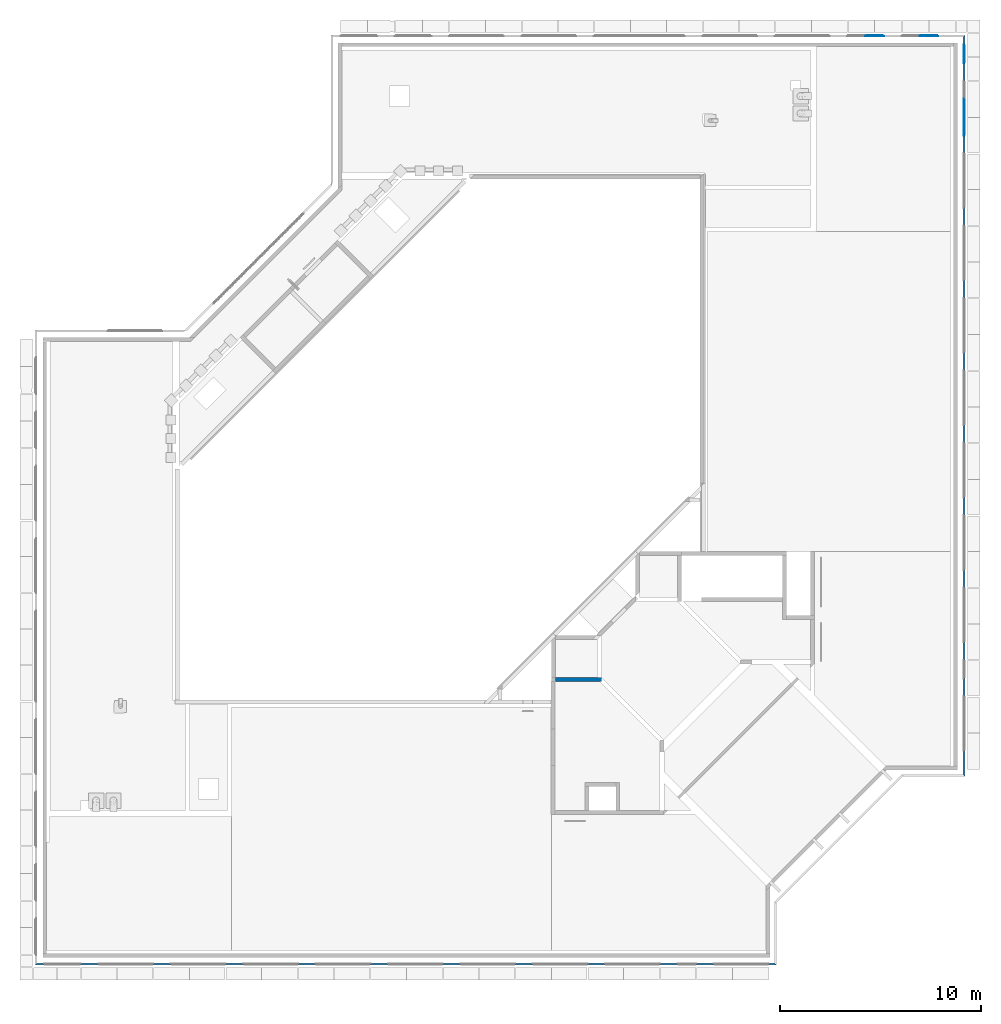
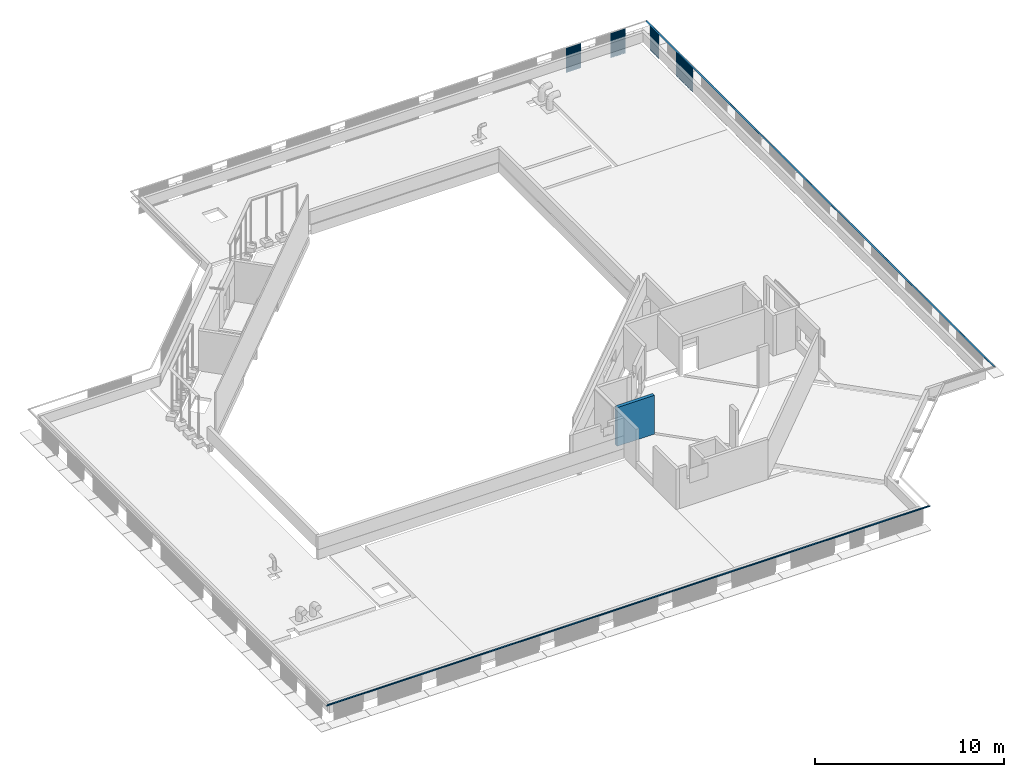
# One storey, part 16 of 37: 6 walls, 2 discrete accessories.
"""IFC4X3_ADD2 building model written with IfcOpenShell, lengths in millimetres."""

from ifc_helpers import new_model, si_unit, direction, frame, origin_with_axes, place, context, subcontext, project, spatial, polyline, outline, extrude, polygons, source, transform, mapped, material, type_object, element, save


model = new_model("IFC4X3_ADD2")

# Units and contexts
model_context = context("Model", 3, precision=1e-05, world=origin_with_axes(), true_north=direction((0.0, 1.0)))
body_context = subcontext(model_context, "Body", "Model", "MODEL_VIEW")
ifc_project = project(units=[si_unit("LENGTHUNIT", "METRE", prefix="MILLI"), si_unit("AREAUNIT", "SQUARE_METRE"), si_unit("VOLUMEUNIT", "CUBIC_METRE"), si_unit("PLANEANGLEUNIT", "RADIAN"), si_unit("TIMEUNIT", "SECOND"), si_unit("MASSUNIT", "GRAM")], contexts=[model_context])

# Site, building, storey
site_placement = place(None, origin_with_axes())
site = spatial("IfcSite", under=ifc_project, at=site_placement, Name="Site", CompositionType="ELEMENT")
building_placement = place(site_placement, origin_with_axes())
building = spatial("IfcBuilding", under=site, at=building_placement, Name="IFC Building Story")
storey_placement = place(building_placement, frame((0.0, 0.0, 14400.0), z_axis=(0.0, 0.0, 1.0), x_axis=(1.0, 0.0, 0.0)))
storey = spatial("IfcBuildingStorey", under=building, at=storey_placement, Name="040", Elevation=14400.0)

# Walls
ifc_material_1 = material(Name="BB_Metaal_Aluminium_Puntprofiel")
wall_type = type_object("IfcWallType", Name="BB_Metaal_Aluminium_Puntprofiel 1", PredefinedType="NOTDEFINED", material=ifc_material_1)
wall_1_placement = place(storey_placement, origin_with_axes())
element("IfcWall", 1, at=wall_1_placement, inside=storey, type_object=wall_type, Name="BB_07.10_Gevelbekleding_PuntProfiel, 900 mm, vol_GMO:900 x 1600 mm", ObjectType="BB_07.10_Gevelbekleding_PuntProfiel, 900 mm, vol_GMO:900 x 1600 mm", PredefinedType="NOTDEFINED", context=body_context, shape_type="SweptSolid", body=[
    extrude(outline(polyline([(-10.06027913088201, -349.0000000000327), (-10.06027913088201, -371.0000000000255), (23.93972086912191, -405.0000000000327), (-10.06027913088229, -439.0000000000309), (-10.06027913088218, -461.0000000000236), (-11.06027913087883, -461.4142135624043), (-11.06027913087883, -438.5857864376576), (22.52550730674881, -405.0000000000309), (-11.06027913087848, -371.4142135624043), (-11.06027913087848, -348.5857864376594), (22.52550730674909, -315.0000000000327), (-11.0602791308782, -281.4142135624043), (-11.0602791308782, -258.5857864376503), (22.52550730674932, -225.0000000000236), (-11.06027913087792, -191.4142135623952), (-11.06027913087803, -168.585786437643), (22.5255073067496, -135.0000000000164), (-11.0602791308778, -101.4142135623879), (-11.06027913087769, -78.58578643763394), (22.52550730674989, -45.00000000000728), (-11.06027913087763, -11.41421356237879), (-11.06027913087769, 11.41421356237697), (22.52550730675, 45.00000000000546), (-11.0602791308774, 78.58578643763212), (-11.0602791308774, 101.4142135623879), (22.52550730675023, 135.0000000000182), (-11.06027913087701, 168.585786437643), (-11.06027913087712, 191.4142135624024), (22.5255073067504, 225.0000000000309), (-11.06027913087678, 258.5857864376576), (-11.06027913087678, 281.4142135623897), (22.5255073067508, 315.0000000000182), (-11.06027913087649, 348.585786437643), (-11.06027913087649, 371.4142135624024), (22.52550730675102, 405.0000000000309), (-11.06027913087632, 438.5857864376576), (-11.06027913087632, 461.4142135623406), (-10.0602791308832, 460.9999999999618), (-10.0602791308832, 439.0000000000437), (23.93972086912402, 405.0000000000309), (-10.06027913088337, 371.0000000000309), (-10.06027913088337, 349.0000000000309), (23.93972086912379, 315.0000000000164), (-10.0602791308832, 281.0000000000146), (-10.0602791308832, 259.0000000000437), (23.93972086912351, 225.0000000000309), (-10.060279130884, 191.0000000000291), (-10.060279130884, 169.0000000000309), (23.93972086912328, 135.0000000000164), (-10.06027913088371, 101.0000000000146), (-10.06027913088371, 79.00000000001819), (23.93972086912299, 45.00000000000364), (-10.06027913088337, 11.00000000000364), (-10.06027913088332, -10.99999999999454), (23.93972086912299, -45.00000000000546), (-10.0602791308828, -79.00000000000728), (-10.0602791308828, -101.0000000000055), (23.93972086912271, -135.0000000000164), (-10.06027913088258, -169.0000000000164), (-10.06027913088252, -191.0000000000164), (23.93972086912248, -225.0000000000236), (-10.06027913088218, -259.0000000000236), (-10.06027913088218, -281.0000000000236), (23.9397208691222, -315.0000000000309), (-10.06027913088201, -349.0000000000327)])), frame((426.0602791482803, 41230.00000000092, -960.0), z_axis=(0.0, 0.0, 1.0), x_axis=(1.0, 0.0, 0.0)), (0.0, 0.0, 1.0), 1600.0),
])
wall_2_placement = place(storey_placement, origin_with_axes())
element("IfcWall", 2, at=wall_2_placement, inside=storey, type_object=wall_type, Name="BB_07.10_Gevelbekleding_PuntProfiel, 900 mm, vol_GMO:900 x 1600 mm", ObjectType="BB_07.10_Gevelbekleding_PuntProfiel, 900 mm, vol_GMO:900 x 1600 mm", PredefinedType="NOTDEFINED", context=body_context, shape_type="SweptSolid", body=[
    extrude(outline(polyline([(-10.06027913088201, -349.0000000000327), (-10.06027913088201, -371.0000000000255), (23.93972086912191, -405.0000000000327), (-10.06027913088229, -439.0000000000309), (-10.06027913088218, -461.0000000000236), (-11.06027913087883, -461.4142135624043), (-11.06027913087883, -438.5857864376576), (22.52550730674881, -405.0000000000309), (-11.06027913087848, -371.4142135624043), (-11.06027913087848, -348.5857864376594), (22.52550730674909, -315.0000000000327), (-11.0602791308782, -281.4142135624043), (-11.0602791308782, -258.5857864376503), (22.52550730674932, -225.0000000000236), (-11.06027913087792, -191.4142135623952), (-11.06027913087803, -168.585786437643), (22.5255073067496, -135.0000000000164), (-11.0602791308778, -101.4142135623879), (-11.06027913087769, -78.58578643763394), (22.52550730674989, -45.00000000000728), (-11.06027913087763, -11.41421356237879), (-11.06027913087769, 11.41421356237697), (22.52550730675, 45.00000000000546), (-11.0602791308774, 78.58578643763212), (-11.0602791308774, 101.4142135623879), (22.52550730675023, 135.0000000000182), (-11.06027913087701, 168.585786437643), (-11.06027913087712, 191.4142135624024), (22.5255073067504, 225.0000000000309), (-11.06027913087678, 258.5857864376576), (-11.06027913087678, 281.4142135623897), (22.5255073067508, 315.0000000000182), (-11.06027913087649, 348.585786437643), (-11.06027913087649, 371.4142135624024), (22.52550730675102, 405.0000000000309), (-11.06027913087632, 438.5857864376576), (-11.06027913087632, 461.4142135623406), (-10.0602791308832, 460.9999999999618), (-10.0602791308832, 439.0000000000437), (23.93972086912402, 405.0000000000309), (-10.06027913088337, 371.0000000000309), (-10.06027913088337, 349.0000000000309), (23.93972086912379, 315.0000000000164), (-10.0602791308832, 281.0000000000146), (-10.0602791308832, 259.0000000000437), (23.93972086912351, 225.0000000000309), (-10.060279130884, 191.0000000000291), (-10.060279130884, 169.0000000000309), (23.93972086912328, 135.0000000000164), (-10.06027913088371, 101.0000000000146), (-10.06027913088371, 79.00000000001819), (23.93972086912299, 45.00000000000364), (-10.06027913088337, 11.00000000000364), (-10.06027913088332, -10.99999999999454), (23.93972086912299, -45.00000000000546), (-10.0602791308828, -79.00000000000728), (-10.0602791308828, -101.0000000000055), (23.93972086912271, -135.0000000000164), (-10.06027913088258, -169.0000000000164), (-10.06027913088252, -191.0000000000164), (23.93972086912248, -225.0000000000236), (-10.06027913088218, -259.0000000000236), (-10.06027913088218, -281.0000000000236), (23.9397208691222, -315.0000000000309), (-10.06027913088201, -349.0000000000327)])), frame((426.0602791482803, 42130.00000000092, -960.0), z_axis=(0.0, 0.0, 1.0), x_axis=(1.0, 0.0, 0.0)), (0.0, 0.0, 1.0), 1600.0),
])
wall_3_placement = place(storey_placement, origin_with_axes())
element("IfcWall", 3, at=wall_3_placement, inside=storey, type_object=wall_type, Name="BB_07.10_Gevelbekleding_PuntProfiel, 900 mm, vol_GMO:900 x 1600 mm", ObjectType="BB_07.10_Gevelbekleding_PuntProfiel, 900 mm, vol_GMO:900 x 1600 mm", PredefinedType="NOTDEFINED", context=body_context, shape_type="SweptSolid", body=[
    extrude(outline(polyline([(-10.06027913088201, -349.0000000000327), (-10.06027913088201, -371.0000000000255), (23.93972086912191, -405.0000000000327), (-10.06027913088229, -439.0000000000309), (-10.06027913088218, -461.0000000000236), (-11.06027913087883, -461.4142135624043), (-11.06027913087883, -438.5857864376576), (22.52550730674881, -405.0000000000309), (-11.06027913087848, -371.4142135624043), (-11.06027913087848, -348.5857864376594), (22.52550730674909, -315.0000000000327), (-11.0602791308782, -281.4142135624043), (-11.0602791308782, -258.5857864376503), (22.52550730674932, -225.0000000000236), (-11.06027913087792, -191.4142135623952), (-11.06027913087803, -168.585786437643), (22.5255073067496, -135.0000000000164), (-11.0602791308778, -101.4142135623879), (-11.06027913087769, -78.58578643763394), (22.52550730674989, -45.00000000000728), (-11.06027913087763, -11.41421356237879), (-11.06027913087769, 11.41421356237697), (22.52550730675, 45.00000000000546), (-11.0602791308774, 78.58578643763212), (-11.0602791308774, 101.4142135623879), (22.52550730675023, 135.0000000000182), (-11.06027913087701, 168.585786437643), (-11.06027913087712, 191.4142135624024), (22.5255073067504, 225.0000000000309), (-11.06027913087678, 258.5857864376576), (-11.06027913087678, 281.4142135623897), (22.5255073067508, 315.0000000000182), (-11.06027913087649, 348.585786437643), (-11.06027913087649, 371.4142135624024), (22.52550730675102, 405.0000000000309), (-11.06027913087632, 438.5857864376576), (-11.06027913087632, 461.4142135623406), (-10.0602791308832, 460.9999999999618), (-10.0602791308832, 439.0000000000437), (23.93972086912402, 405.0000000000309), (-10.06027913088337, 371.0000000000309), (-10.06027913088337, 349.0000000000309), (23.93972086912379, 315.0000000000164), (-10.0602791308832, 281.0000000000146), (-10.0602791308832, 259.0000000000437), (23.93972086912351, 225.0000000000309), (-10.060279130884, 191.0000000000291), (-10.060279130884, 169.0000000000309), (23.93972086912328, 135.0000000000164), (-10.06027913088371, 101.0000000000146), (-10.06027913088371, 79.00000000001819), (23.93972086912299, 45.00000000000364), (-10.06027913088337, 11.00000000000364), (-10.06027913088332, -10.99999999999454), (23.93972086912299, -45.00000000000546), (-10.0602791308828, -79.00000000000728), (-10.0602791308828, -101.0000000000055), (23.93972086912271, -135.0000000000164), (-10.06027913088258, -169.0000000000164), (-10.06027913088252, -191.0000000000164), (23.93972086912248, -225.0000000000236), (-10.06027913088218, -259.0000000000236), (-10.06027913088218, -281.0000000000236), (23.9397208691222, -315.0000000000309), (-10.06027913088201, -349.0000000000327)])), frame((426.0602791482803, 44830.00000000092, -960.0), z_axis=(0.0, 0.0, 1.0), x_axis=(1.0, 0.0, 0.0)), (0.0, 0.0, 1.0), 1600.0),
])
wall_4_placement = place(storey_placement, origin_with_axes())
element("IfcWall", 4, at=wall_4_placement, inside=storey, type_object=wall_type, Name="BB_07.10_Gevelbekleding_PuntProfiel, 900 mm, vol_GMO:900 x 1600 mm", ObjectType="BB_07.10_Gevelbekleding_PuntProfiel, 900 mm, vol_GMO:900 x 1600 mm", PredefinedType="NOTDEFINED", context=body_context, shape_type="SweptSolid", body=[
    extrude(outline(polyline([(349.0000000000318, -10.06027913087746), (371.0000000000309, -10.06027913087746), (405.0000000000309, 23.93972086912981), (439.0000000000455, -10.06027913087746), (460.9999999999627, -10.06027913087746), (461.4142135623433, -11.06027913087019), (438.5857864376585, -11.06027913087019), (405.0000000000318, 22.52550730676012), (371.4142135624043, -11.06027913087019), (348.5857864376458, -11.06027913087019), (315.0000000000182, 22.52550730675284), (281.4142135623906, -11.06027913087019), (258.5857864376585, -11.06027913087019), (225.0000000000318, 22.52550730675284), (191.4142135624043, -11.06027913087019), (168.5857864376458, -11.06027913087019), (135.0000000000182, 22.52550730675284), (101.4142135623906, -11.06027913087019), (78.58578643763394, -11.06027913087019), (45.00000000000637, 22.52550730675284), (11.4142135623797, -11.06027913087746), (-11.41421356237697, -11.06027913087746), (-45.00000000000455, 22.52550730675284), (-78.58578643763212, -11.06027913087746), (-101.414213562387, -11.06027913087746), (-135.0000000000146, 22.52550730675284), (-168.5857864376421, -11.06027913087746), (-191.4142135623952, -11.06027913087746), (-225.0000000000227, 22.52550730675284), (-258.5857864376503, -11.06027913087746), (-281.4142135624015, -11.06027913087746), (-315.0000000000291, 22.52550730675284), (-348.5857864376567, -11.06027913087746), (-371.4142135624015, -11.06027913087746), (-405.00000000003, 22.52550730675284), (-438.5857864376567, -11.06027913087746), (-461.4142135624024, -11.06027913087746), (-461.0000000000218, -10.06027913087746), (-439.00000000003, -10.06027913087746), (-405.00000000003, 23.93972086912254), (-371.0000000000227, -10.06027913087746), (-349.00000000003, -10.06027913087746), (-315.0000000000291, 23.93972086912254), (-281.0000000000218, -10.06027913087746), (-259.0000000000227, -10.06027913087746), (-225.0000000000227, 23.93972086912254), (-191.0000000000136, -10.06027913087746), (-169.0000000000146, -10.06027913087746), (-135.0000000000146, 23.93972086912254), (-101.0000000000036, -10.06027913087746), (-79.00000000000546, -10.06027913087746), (-45.00000000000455, 23.93972086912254), (-10.99999999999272, -10.06027913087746), (11.00000000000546, -10.06027913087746), (45.00000000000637, 23.93972086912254), (79.0000000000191, -10.06027913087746), (101.0000000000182, -10.06027913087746), (135.0000000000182, 23.93972086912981), (169.0000000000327, -10.06027913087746), (191.0000000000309, -10.06027913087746), (225.0000000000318, 23.93972086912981), (259.0000000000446, -10.06027913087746), (281.0000000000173, -10.06027913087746), (315.0000000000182, 23.93972086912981), (349.0000000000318, -10.06027913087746)])), frame((-4014.999999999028, 45726.06027913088, -960.0), z_axis=(0.0, 0.0, 1.0), x_axis=(1.0, 0.0, 0.0)), (0.0, 0.0, 1.0), 1600.0),
])
wall_5_placement = place(storey_placement, origin_with_axes())
element("IfcWall", 5, at=wall_5_placement, inside=storey, type_object=wall_type, Name="BB_07.10_Gevelbekleding_PuntProfiel, 900 mm, vol_GMO:900 x 1600 mm", ObjectType="BB_07.10_Gevelbekleding_PuntProfiel, 900 mm, vol_GMO:900 x 1600 mm", PredefinedType="NOTDEFINED", context=body_context, shape_type="SweptSolid", body=[
    extrude(outline(polyline([(349.0000000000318, -10.06027913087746), (371.0000000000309, -10.06027913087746), (405.0000000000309, 23.93972086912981), (439.0000000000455, -10.06027913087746), (460.9999999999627, -10.06027913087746), (461.4142135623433, -11.06027913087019), (438.5857864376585, -11.06027913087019), (405.0000000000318, 22.52550730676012), (371.4142135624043, -11.06027913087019), (348.5857864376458, -11.06027913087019), (315.0000000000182, 22.52550730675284), (281.4142135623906, -11.06027913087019), (258.5857864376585, -11.06027913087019), (225.0000000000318, 22.52550730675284), (191.4142135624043, -11.06027913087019), (168.5857864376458, -11.06027913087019), (135.0000000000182, 22.52550730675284), (101.4142135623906, -11.06027913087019), (78.58578643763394, -11.06027913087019), (45.00000000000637, 22.52550730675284), (11.4142135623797, -11.06027913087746), (-11.41421356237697, -11.06027913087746), (-45.00000000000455, 22.52550730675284), (-78.58578643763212, -11.06027913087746), (-101.414213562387, -11.06027913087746), (-135.0000000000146, 22.52550730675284), (-168.5857864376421, -11.06027913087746), (-191.4142135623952, -11.06027913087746), (-225.0000000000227, 22.52550730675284), (-258.5857864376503, -11.06027913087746), (-281.4142135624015, -11.06027913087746), (-315.0000000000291, 22.52550730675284), (-348.5857864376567, -11.06027913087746), (-371.4142135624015, -11.06027913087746), (-405.00000000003, 22.52550730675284), (-438.5857864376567, -11.06027913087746), (-461.4142135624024, -11.06027913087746), (-461.0000000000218, -10.06027913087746), (-439.00000000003, -10.06027913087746), (-405.00000000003, 23.93972086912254), (-371.0000000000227, -10.06027913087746), (-349.00000000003, -10.06027913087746), (-315.0000000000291, 23.93972086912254), (-281.0000000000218, -10.06027913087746), (-259.0000000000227, -10.06027913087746), (-225.0000000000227, 23.93972086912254), (-191.0000000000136, -10.06027913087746), (-169.0000000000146, -10.06027913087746), (-135.0000000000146, 23.93972086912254), (-101.0000000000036, -10.06027913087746), (-79.00000000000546, -10.06027913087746), (-45.00000000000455, 23.93972086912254), (-10.99999999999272, -10.06027913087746), (11.00000000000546, -10.06027913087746), (45.00000000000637, 23.93972086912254), (79.0000000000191, -10.06027913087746), (101.0000000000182, -10.06027913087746), (135.0000000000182, 23.93972086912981), (169.0000000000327, -10.06027913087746), (191.0000000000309, -10.06027913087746), (225.0000000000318, 23.93972086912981), (259.0000000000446, -10.06027913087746), (281.0000000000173, -10.06027913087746), (315.0000000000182, 23.93972086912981), (349.0000000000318, -10.06027913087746)])), frame((-1314.999999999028, 45726.06027913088, -960.0), z_axis=(0.0, 0.0, 1.0), x_axis=(1.0, 0.0, 0.0)), (0.0, 0.0, 1.0), 1600.0),
])
wall_6_placement = place(storey_placement, frame((0.0, 0.0, -14400.0), z_axis=(0.0, 0.0, 1.0), x_axis=(1.0, 0.0, 0.0)))
element("IfcWall", 6, at=wall_6_placement, inside=storey, Name="Basic Wall:BB_XX_Wand uit beton, 200 mm", ObjectType="Basic Wall:BB_XX_Wand uit beton, 200 mm", PredefinedType="SOLIDWALL", context=body_context, shape_type="Tessellation", body=[
    polygons([(-17600.0, 13815.0, 14200.0), (-19900.00000000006, 13815.0, 14200.0), (-19900.00000000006, 13815.0, 16700.0), (-17600.0, 13815.0, 16700.0), (-19900.00000000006, 13615.0, 14200.0), (-17600.0, 13615.0, 14200.0), (-17600.0, 13615.0, 16700.0), (-19900.00000000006, 13615.0, 16700.0)], [[[1, 2, 3, 4]], [[5, 6, 7, 8]], [[2, 1, 6, 5]], [[6, 1, 4, 7]], [[2, 5, 8, 3]], [[4, 3, 8, 7]]]),
])

# Discrete accessories
ifc_material_2 = material(Name="BB_Metaal_Aluminium_Buitenschrijnwerk")
shared_shape = source(origin_with_axes(), body_context, "Body", "Tessellation", [
    polygons([(1.99999999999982, 2.00000000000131, 44.9888268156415), (2.0, 2.00000000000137, 5.00291224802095), (8.10150784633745, 8.10150784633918, 11.4146481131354), (9.51615595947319, 9.51615595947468, 10.0), (0.0, 1.30282451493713e-12, 0.0), (0.0, 1.27321486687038e-12, 59.9888268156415), (9.99999999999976, 10.0000000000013, 59.9888268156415), (9.99999999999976, 10.0000000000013, 57.9888268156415), (2.0, 2.00000000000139, 57.9888268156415), (2.0, 2.00000000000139, 46.9888268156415), (99.9999999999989, 100.0, 46.9888268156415), (99.9999999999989, 100.0, 44.9888268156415), (36868.0282493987, 2.0, 5.00291224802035), (36868.0282493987, 2.0, 44.9888268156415), (36770.0282493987, 100.0, 44.9888268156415), (36770.0282493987, 100.0, 46.9888268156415), (36868.0282493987, 2.0, 46.9888268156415), (36868.0282493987, 2.0, 57.9888268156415), (36860.0282493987, 10.0, 57.9888268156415), (36860.0282493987, 10.0, 59.9888268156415), (36870.0282493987, 0.0, 59.9888268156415), (36870.0282493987, 1.62853064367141e-12, 0.0), (36860.5120934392, 9.51615595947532, 10.0), (36861.9267415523, 8.10150784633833, 11.4146481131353)], [[[2, 3, 4]], [[2, 4, 5]], [[5, 6, 1]], [[5, 1, 2]], [[10, 11, 12]], [[10, 12, 1]], [[10, 1, 6]], [[6, 9, 10]], [[6, 7, 8]], [[6, 8, 9]], [[18, 19, 20]], [[18, 20, 21]], [[21, 17, 18]], [[21, 14, 17]], [[14, 15, 16]], [[14, 16, 17]], [[21, 22, 13]], [[21, 13, 14]], [[22, 23, 24]], [[22, 24, 13]], [[2, 1, 14, 13]], [[5, 4, 23, 22]], [[3, 2, 13, 24]], [[6, 5, 22, 21]], [[4, 3, 24, 23]], [[7, 6, 21, 20]], [[8, 7, 20, 19]], [[9, 8, 19, 18]], [[10, 9, 18, 17]], [[11, 10, 17, 16]], [[12, 11, 16, 15]], [[1, 12, 15, 14]]]),
])
for number, where, z_axis, x_axis in (
    (7, (480.0, 8909.97175060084, 620.0055865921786), (0.0, 0.0, 1.0), (0.0, 1.0, 0.0)),
    (8, (-45780.0, -480.0, 620.0055865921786), (0.0, 0.0, 1.0), (1.0, 0.0, 0.0)),
):
    element("IfcDiscreteAccessory", number, at=place(storey_placement, frame(where, z_axis=z_axis, x_axis=x_axis)), inside=storey, material=ifc_material_2, Name="BB_05.10_Dakrandprofiel, 60 mm_GLI:XX_Geen", ObjectType="BB_05.10_Dakrandprofiel, 60 mm_GLI:XX_Geen", PredefinedType="USERDEFINED", context=body_context, shape_type="MappedRepresentation", body=[
        mapped(shared_shape, transform((0.0, 0.0, 0.0))),
    ])

save(model, "model.ifc")
